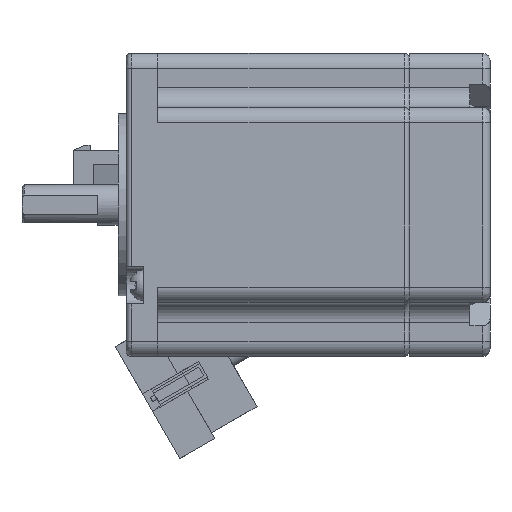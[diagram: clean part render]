
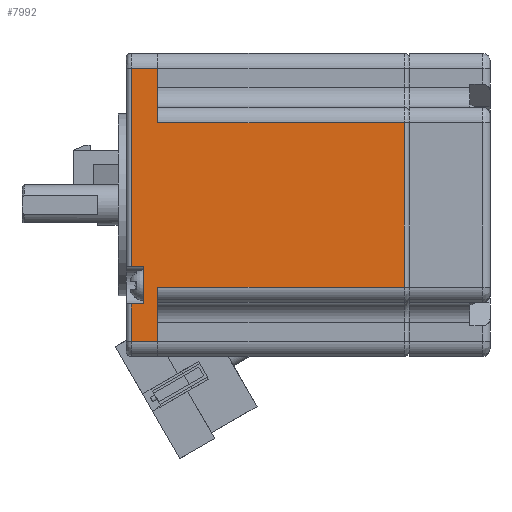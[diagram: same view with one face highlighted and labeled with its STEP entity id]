
A CAD part, front view. The second image highlights one B-rep face of the part: STEP entity #7992.
In plain terms, the highlighted planar face has unit normal (0, -1, 0) as drawn and (0, 1, 0) by its records, which use the part's own axes.
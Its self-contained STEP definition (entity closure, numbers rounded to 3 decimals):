
#206 = VECTOR ( 'NONE', #4185, 1000. ) ;
#319 = DIRECTION ( 'NONE',  ( 0., 1., 0. ) ) ;
#557 = ORIENTED_EDGE ( 'NONE', *, *, #7866, .T. ) ;
#640 = EDGE_LOOP ( 'NONE', ( #22160, #9833, #11717, #19997, #14945, #557, #24964, #24355, #7975, #16569, #10762, #19081 ) ) ;
#1065 = VECTOR ( 'NONE', #22827, 1000. ) ;
#1125 = LINE ( 'NONE', #20260, #11360 ) ;
#1308 = EDGE_CURVE ( 'NONE', #24153, #5349, #30154, .T. ) ;
#1393 = VERTEX_POINT ( 'NONE', #14276 ) ;
#2021 = EDGE_CURVE ( 'NONE', #7728, #11701, #11987, .T. ) ;
#2177 = VECTOR ( 'NONE', #30261, 1000. ) ;
#2483 = VERTEX_POINT ( 'NONE', #10242 ) ;
#2718 = VECTOR ( 'NONE', #20917, 1000. ) ;
#3082 = CARTESIAN_POINT ( 'NONE',  ( 89.176, 115.692, -205.7 ) ) ;
#3342 = VECTOR ( 'NONE', #8595, 1000. ) ;
#3997 = VECTOR ( 'NONE', #23725, 1000. ) ;
#4014 = CARTESIAN_POINT ( 'NONE',  ( 78.476, 115.692, -157. ) ) ;
#4116 = EDGE_CURVE ( 'NONE', #29178, #10379, #20634, .T. ) ;
#4185 = DIRECTION ( 'NONE',  ( 1., 0., 0. ) ) ;
#4604 = EDGE_CURVE ( 'NONE', #7728, #4848, #8757, .T. ) ;
#4848 = VERTEX_POINT ( 'NONE', #24982 ) ;
#5349 = VERTEX_POINT ( 'NONE', #14572 ) ;
#5391 = DIRECTION ( 'NONE',  ( -1., 0., 0. ) ) ;
#5807 = VECTOR ( 'NONE', #5391, 1000. ) ;
#6108 = EDGE_CURVE ( 'NONE', #12514, #24153, #17351, .T. ) ;
#6836 = AXIS2_PLACEMENT_3D ( 'NONE', #9632, #319, #16668 ) ;
#6965 = EDGE_CURVE ( 'NONE', #25242, #29300, #26249, .T. ) ;
#7243 = LINE ( 'NONE', #20447, #1065 ) ;
#7728 = VERTEX_POINT ( 'NONE', #4014 ) ;
#7745 = DIRECTION ( 'NONE',  ( 0., 0., -1. ) ) ;
#7866 = EDGE_CURVE ( 'NONE', #11701, #29178, #10636, .T. ) ;
#7975 = ORIENTED_EDGE ( 'NONE', *, *, #23133, .T. ) ;
#7992 = ADVANCED_FACE ( 'NONE', ( #15685 ), #11975, .T. ) ;
#8521 = CARTESIAN_POINT ( 'NONE',  ( 42.576, 115.692, -208.5 ) ) ;
#8595 = DIRECTION ( 'NONE',  ( 0., 0., -1. ) ) ;
#8669 = EDGE_CURVE ( 'NONE', #5349, #2483, #29912, .T. ) ;
#8757 = LINE ( 'NONE', #10091, #5807 ) ;
#9101 = CARTESIAN_POINT ( 'NONE',  ( 35.176, 115.692, -212. ) ) ;
#9632 = CARTESIAN_POINT ( 'NONE',  ( 92.176, 115.692, -212. ) ) ;
#9833 = ORIENTED_EDGE ( 'NONE', *, *, #8669, .T. ) ;
#10091 = CARTESIAN_POINT ( 'NONE',  ( 0., 115.692, -157. ) ) ;
#10242 = CARTESIAN_POINT ( 'NONE',  ( 45.876, 115.692, -205.7 ) ) ;
#10379 = VERTEX_POINT ( 'NONE', #10934 ) ;
#10636 = LINE ( 'NONE', #11488, #2177 ) ;
#10762 = ORIENTED_EDGE ( 'NONE', *, *, #19743, .T. ) ;
#10934 = CARTESIAN_POINT ( 'NONE',  ( 89.176, 115.692, -211. ) ) ;
#11360 = VECTOR ( 'NONE', #27394, 1000. ) ;
#11488 = CARTESIAN_POINT ( 'NONE',  ( 92.176, 115.692, -205.7 ) ) ;
#11701 = VERTEX_POINT ( 'NONE', #27284 ) ;
#11717 = ORIENTED_EDGE ( 'NONE', *, *, #13930, .F. ) ;
#11906 = DIRECTION ( 'NONE',  ( -1., 0., 0. ) ) ;
#11975 = PLANE ( 'NONE',  #6836 ) ;
#11987 = LINE ( 'NONE', #21782, #12205 ) ;
#12205 = VECTOR ( 'NONE', #7745, 1000. ) ;
#12514 = VERTEX_POINT ( 'NONE', #21460 ) ;
#12857 = CARTESIAN_POINT ( 'NONE',  ( 49.976, 115.692, -208.5 ) ) ;
#13693 = CARTESIAN_POINT ( 'NONE',  ( 89.176, 115.692, -212. ) ) ;
#13930 = EDGE_CURVE ( 'NONE', #4848, #2483, #15813, .T. ) ;
#14276 = CARTESIAN_POINT ( 'NONE',  ( 49.976, 115.692, -211. ) ) ;
#14572 = CARTESIAN_POINT ( 'NONE',  ( 35.176, 115.692, -205.7 ) ) ;
#14945 = ORIENTED_EDGE ( 'NONE', *, *, #2021, .T. ) ;
#15143 = EDGE_CURVE ( 'NONE', #10379, #1393, #1125, .T. ) ;
#15685 = FACE_OUTER_BOUND ( 'NONE', #640, .T. ) ;
#15813 = LINE ( 'NONE', #29725, #3342 ) ;
#15862 = CARTESIAN_POINT ( 'NONE',  ( 92.176, 115.692, -205.7 ) ) ;
#16569 = ORIENTED_EDGE ( 'NONE', *, *, #6965, .T. ) ;
#16668 = DIRECTION ( 'NONE',  ( 0., 0., 1. ) ) ;
#17351 = LINE ( 'NONE', #21225, #24263 ) ;
#18529 = CARTESIAN_POINT ( 'NONE',  ( 49.976, 115.692, -212. ) ) ;
#18960 = CARTESIAN_POINT ( 'NONE',  ( 92.176, 115.692, -208.5 ) ) ;
#19081 = ORIENTED_EDGE ( 'NONE', *, *, #6108, .T. ) ;
#19743 = EDGE_CURVE ( 'NONE', #29300, #12514, #7243, .T. ) ;
#19997 = ORIENTED_EDGE ( 'NONE', *, *, #4604, .F. ) ;
#20260 = CARTESIAN_POINT ( 'NONE',  ( 92.176, 115.692, -211. ) ) ;
#20447 = CARTESIAN_POINT ( 'NONE',  ( 42.576, 115.692, -212. ) ) ;
#20634 = LINE ( 'NONE', #13693, #25948 ) ;
#20917 = DIRECTION ( 'NONE',  ( 0., 0., 1. ) ) ;
#20955 = DIRECTION ( 'NONE',  ( 0., 0., -1. ) ) ;
#21225 = CARTESIAN_POINT ( 'NONE',  ( 92.176, 115.692, -211. ) ) ;
#21400 = LINE ( 'NONE', #18529, #2718 ) ;
#21460 = CARTESIAN_POINT ( 'NONE',  ( 42.576, 115.692, -211. ) ) ;
#21782 = CARTESIAN_POINT ( 'NONE',  ( 78.476, 115.692, -212. ) ) ;
#22160 = ORIENTED_EDGE ( 'NONE', *, *, #1308, .T. ) ;
#22827 = DIRECTION ( 'NONE',  ( 0., 0., -1. ) ) ;
#23133 = EDGE_CURVE ( 'NONE', #1393, #25242, #21400, .T. ) ;
#23320 = DIRECTION ( 'NONE',  ( 0., 0., 1. ) ) ;
#23725 = DIRECTION ( 'NONE',  ( -1., 0., 0. ) ) ;
#24153 = VERTEX_POINT ( 'NONE', #27256 ) ;
#24263 = VECTOR ( 'NONE', #11906, 1000. ) ;
#24355 = ORIENTED_EDGE ( 'NONE', *, *, #15143, .T. ) ;
#24964 = ORIENTED_EDGE ( 'NONE', *, *, #4116, .T. ) ;
#24982 = CARTESIAN_POINT ( 'NONE',  ( 45.876, 115.692, -157. ) ) ;
#25242 = VERTEX_POINT ( 'NONE', #12857 ) ;
#25948 = VECTOR ( 'NONE', #20955, 1000. ) ;
#26249 = LINE ( 'NONE', #18960, #3997 ) ;
#27256 = CARTESIAN_POINT ( 'NONE',  ( 35.176, 115.692, -211. ) ) ;
#27284 = CARTESIAN_POINT ( 'NONE',  ( 78.476, 115.692, -205.7 ) ) ;
#27394 = DIRECTION ( 'NONE',  ( -1., 0., 0. ) ) ;
#29178 = VERTEX_POINT ( 'NONE', #3082 ) ;
#29300 = VERTEX_POINT ( 'NONE', #8521 ) ;
#29355 = VECTOR ( 'NONE', #23320, 1000. ) ;
#29725 = CARTESIAN_POINT ( 'NONE',  ( 45.876, 115.692, -205.7 ) ) ;
#29912 = LINE ( 'NONE', #15862, #206 ) ;
#30154 = LINE ( 'NONE', #9101, #29355 ) ;
#30261 = DIRECTION ( 'NONE',  ( 1., 0., 0. ) ) ;
